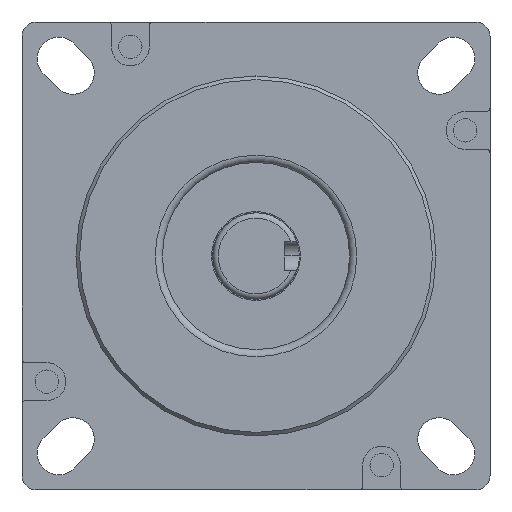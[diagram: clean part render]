
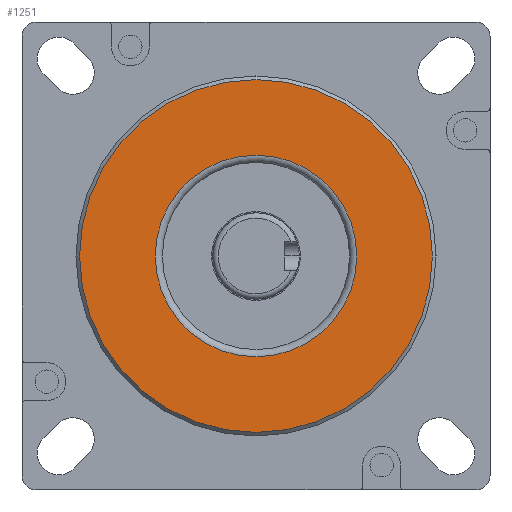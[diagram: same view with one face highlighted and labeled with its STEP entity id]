
A CAD part, front view. The second image highlights one B-rep face of the part: STEP entity #1251.
In plain terms, the highlighted planar face has unit normal (0, -1, 0).
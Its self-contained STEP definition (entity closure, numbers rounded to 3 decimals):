
#248=FACE_BOUND('',#1904,.T.);
#249=FACE_BOUND('',#1905,.T.);
#1251=ADVANCED_FACE('',(#248,#249),#1529,.T.);
#1529=PLANE('',#5236);
#1904=EDGE_LOOP('',(#2273));
#1905=EDGE_LOOP('',(#2274));
#2273=ORIENTED_EDGE('',*,*,#4250,.T.);
#2274=ORIENTED_EDGE('',*,*,#4251,.T.);
#3750=VERTEX_POINT('',#7370);
#3751=VERTEX_POINT('',#7372);
#4250=EDGE_CURVE('',#3750,#3750,#4957,.T.);
#4251=EDGE_CURVE('',#3751,#3751,#4958,.T.);
#4957=CIRCLE('',#5234,49.);
#4958=CIRCLE('',#5235,28.);
#5234=AXIS2_PLACEMENT_3D('',#7369,#5815,#5816);
#5235=AXIS2_PLACEMENT_3D('',#7371,#5817,#5818);
#5236=AXIS2_PLACEMENT_3D('',#7373,#5819,#5820);
#5815=DIRECTION('',(0.,-1.,0.));
#5816=DIRECTION('',(0.,0.,-1.));
#5817=DIRECTION('',(0.,1.,0.));
#5818=DIRECTION('',(1.,0.,0.));
#5819=DIRECTION('',(0.,-1.,0.));
#5820=DIRECTION('',(1.,0.,0.));
#7369=CARTESIAN_POINT('',(0.,-10.,50.8));
#7370=CARTESIAN_POINT('',(0.,-10.,1.8));
#7371=CARTESIAN_POINT('',(0.,-10.,50.8));
#7372=CARTESIAN_POINT('',(28.,-10.,50.8));
#7373=CARTESIAN_POINT('',(0.,-10.,50.8));
